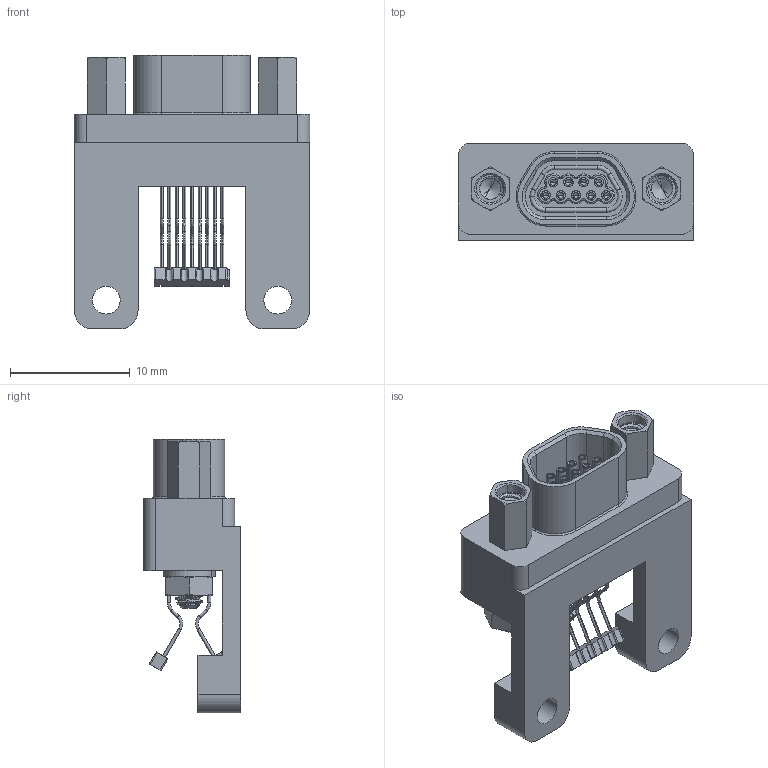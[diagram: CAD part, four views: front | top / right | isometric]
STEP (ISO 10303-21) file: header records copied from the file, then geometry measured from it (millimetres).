
FILE_DESCRIPTION (( 'STEP AP214' ), '1' );
FILE_NAME ('A99801-009 REV B.STEP', '2019-10-24T14:40:19', ( '' ), ( '' ), 'SwSTEP 2.0', 'SolidWorks 2019', '' );
FILE_SCHEMA (( 'AUTOMOTIVE_DESIGN' ));
Length unit declared in the file: inch
Products named in the file (1): A99801-009 REV B
Bounding box: 19.68 x 8.14 x 22.91 mm (x, y, z)
Volume: 1412 mm3; surface area: 2211.3 mm2
Topology: 1 solids, 4 shells, 953 faces, 2450 edges, 1532 vertices
Faces by surface type: cylinder 364, plane 351, torus 85, cone 81, bspline 72
Entity records: 52463 total; most frequent: CARTESIAN_POINT 17555, ORIENTED_EDGE 4844, DIRECTION 4558, EDGE_CURVE 2422, AXIS2_PLACEMENT_3D 1685, VERTEX_POINT 1532, VECTOR 1188, LINE 1188
